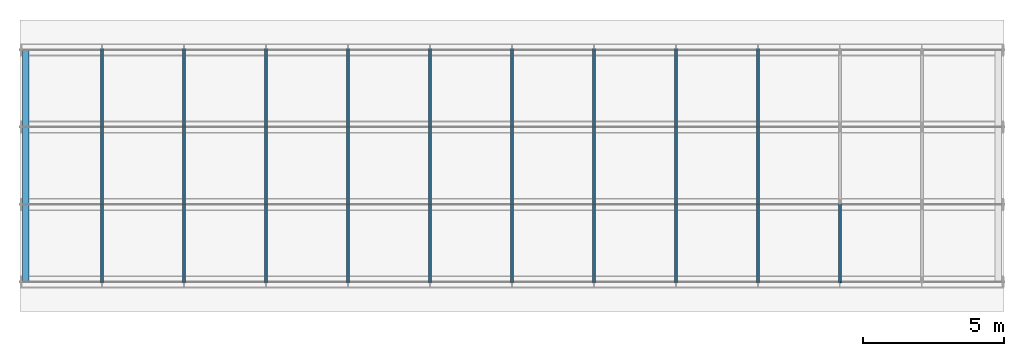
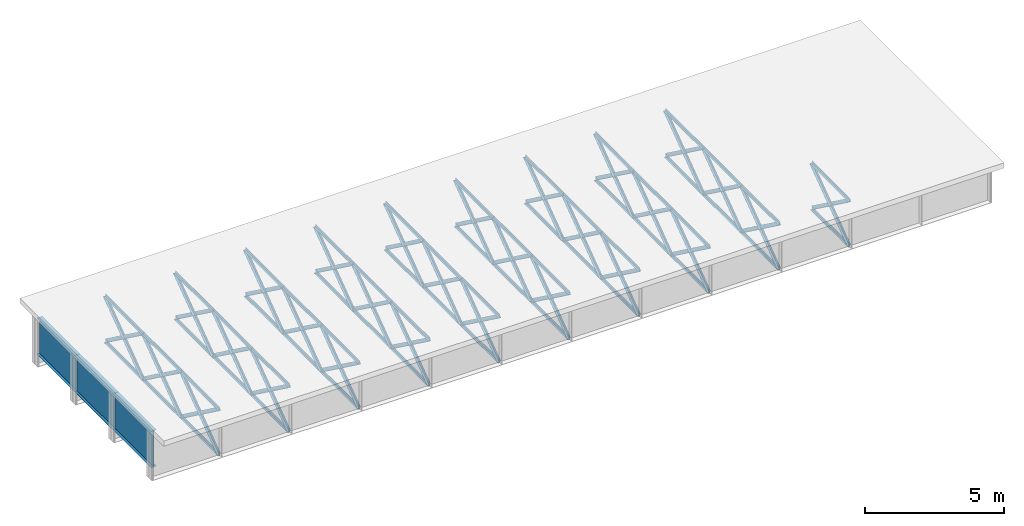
# One storey, part 1 of 13: 115 members.
"""IFC4 building model written with IfcOpenShell, lengths in metres."""

from ifc_helpers import new_model, si_unit, frame, origin, origin_with_axes, origin_2d_with_axis, place, context, subcontext, project, spatial, i_section, l_section, extrude, element, save


model = new_model("IFC4")

# Units and contexts
model_context = context("Model", 3, precision=1e-05, world=origin())
body_context = subcontext(model_context, "Body", "Model", "MODEL_VIEW")
ifc_project = project(units=[si_unit("LENGTHUNIT", "METRE"), si_unit("AREAUNIT", "SQUARE_METRE"), si_unit("VOLUMEUNIT", "CUBIC_METRE"), si_unit("PLANEANGLEUNIT", "RADIAN")], contexts=[model_context])

# Site, building, storey
site_placement = place(None, origin_with_axes())
site = spatial("IfcSite", under=ifc_project, at=site_placement, Name="Default Site")
building_placement = place(site_placement, origin_with_axes())
building = spatial("IfcBuilding", under=site, at=building_placement, Name="Bridge Structure")
storey_placement = place(building_placement, origin_with_axes())
storey = spatial("IfcBuildingStorey", under=building, at=storey_placement, Name="Superstructure")

# Members
for number, where, z_axis, x_axis, name in (
    (1, (0.2, -4.125, 0.2009999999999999), (0.0, 1.0, 0.0), (-1.0, 0.0, 0.0), "End Diaphragm"),
    (2, (0.2, -1.375, 0.2009999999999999), (0.0, 1.0, 0.0), (-1.0, 0.0, 0.0), "End Diaphragm"),
    (3, (0.2, 1.375, 0.2009999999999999), (0.0, 1.0, 0.0), (-1.0, 0.0, 0.0), "End Diaphragm"),
):
    element("IfcMember", number, at=place(storey_placement, frame(where, z_axis=z_axis, x_axis=x_axis)), inside=storey, Name=name, context=body_context, shape_type="SweptSolid", body=[
        extrude(i_section(OverallWidth=0.225, OverallDepth=1.608, WebThickness=0.018000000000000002, FlangeThickness=0.012, at=origin_2d_with_axis()), origin_with_axes(), (0.0, 0.0, 1.0), 2.75),
    ])
for number, where, z_axis, x_axis, name in (
    (4, (2.9166666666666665, -4.125, 1.005), (0.0, 0.8073373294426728, -0.5900901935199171), (-1.0, 0.0, 0.0), "Diagonal Brace"),
    (5, (2.9166666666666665, -4.125, -1.005), (0.0, 0.8073373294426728, 0.5900901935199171), (-1.0, 0.0, 0.0), "Diagonal Brace"),
):
    element("IfcMember", number, at=place(storey_placement, frame(where, z_axis=z_axis, x_axis=x_axis)), inside=storey, Name=name, context=body_context, shape_type="SweptSolid", body=[
        extrude(l_section(Depth=0.15, Width=0.1, Thickness=0.008, at=origin_2d_with_axis()), origin_with_axes(), (0.0, 0.0, 1.0), 3.4062589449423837),
    ])
for number, where, z_axis, x_axis, name in (
    (6, (2.9166666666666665, -4.125, -1.005), (0.0, 1.0, 0.0), (-1.0, 0.0, 0.0), "Bottom Chord"),
    (7, (2.9166666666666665, -4.125, 1.005), (0.0, 1.0, 0.0), (-1.0, 0.0, 0.0), "Top Chord"),
):
    element("IfcMember", number, at=place(storey_placement, frame(where, z_axis=z_axis, x_axis=x_axis)), inside=storey, Name=name, context=body_context, shape_type="SweptSolid", body=[
        extrude(l_section(Depth=0.13, Width=0.08, Thickness=0.008, at=origin_2d_with_axis()), origin_with_axes(), (0.0, 0.0, 1.0), 2.75),
    ])
for number, where, z_axis, x_axis, name in (
    (8, (2.9166666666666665, -1.375, 1.005), (0.0, 0.8073373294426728, -0.5900901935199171), (-1.0, 0.0, 0.0), "Diagonal Brace"),
    (9, (2.9166666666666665, -1.375, -1.005), (0.0, 0.8073373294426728, 0.5900901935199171), (-1.0, 0.0, 0.0), "Diagonal Brace"),
):
    element("IfcMember", number, at=place(storey_placement, frame(where, z_axis=z_axis, x_axis=x_axis)), inside=storey, Name=name, context=body_context, shape_type="SweptSolid", body=[
        extrude(l_section(Depth=0.15, Width=0.1, Thickness=0.008, at=origin_2d_with_axis()), origin_with_axes(), (0.0, 0.0, 1.0), 3.4062589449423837),
    ])
for number, where, z_axis, x_axis, name in (
    (10, (2.9166666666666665, -1.375, -1.005), (0.0, 1.0, 0.0), (-1.0, 0.0, 0.0), "Bottom Chord"),
    (11, (2.9166666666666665, -1.375, 1.005), (0.0, 1.0, 0.0), (-1.0, 0.0, 0.0), "Top Chord"),
):
    element("IfcMember", number, at=place(storey_placement, frame(where, z_axis=z_axis, x_axis=x_axis)), inside=storey, Name=name, context=body_context, shape_type="SweptSolid", body=[
        extrude(l_section(Depth=0.13, Width=0.08, Thickness=0.008, at=origin_2d_with_axis()), origin_with_axes(), (0.0, 0.0, 1.0), 2.75),
    ])
for number, where, z_axis, x_axis, name in (
    (12, (2.9166666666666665, 1.375, 1.005), (0.0, 0.8073373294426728, -0.5900901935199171), (-1.0, 0.0, 0.0), "Diagonal Brace"),
    (13, (2.9166666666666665, 1.375, -1.005), (0.0, 0.8073373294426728, 0.5900901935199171), (-1.0, 0.0, 0.0), "Diagonal Brace"),
):
    element("IfcMember", number, at=place(storey_placement, frame(where, z_axis=z_axis, x_axis=x_axis)), inside=storey, Name=name, context=body_context, shape_type="SweptSolid", body=[
        extrude(l_section(Depth=0.15, Width=0.1, Thickness=0.008, at=origin_2d_with_axis()), origin_with_axes(), (0.0, 0.0, 1.0), 3.4062589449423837),
    ])
for number, where, z_axis, x_axis, name in (
    (14, (2.9166666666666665, 1.375, -1.005), (0.0, 1.0, 0.0), (-1.0, 0.0, 0.0), "Bottom Chord"),
    (15, (2.9166666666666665, 1.375, 1.005), (0.0, 1.0, 0.0), (-1.0, 0.0, 0.0), "Top Chord"),
):
    element("IfcMember", number, at=place(storey_placement, frame(where, z_axis=z_axis, x_axis=x_axis)), inside=storey, Name=name, context=body_context, shape_type="SweptSolid", body=[
        extrude(l_section(Depth=0.13, Width=0.08, Thickness=0.008, at=origin_2d_with_axis()), origin_with_axes(), (0.0, 0.0, 1.0), 2.75),
    ])
for number, where, z_axis, x_axis, name in (
    (16, (5.833333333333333, -4.125, 1.005), (0.0, 0.8073373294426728, -0.5900901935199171), (-1.0, 0.0, 0.0), "Diagonal Brace"),
    (17, (5.833333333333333, -4.125, -1.005), (0.0, 0.8073373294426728, 0.5900901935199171), (-1.0, 0.0, 0.0), "Diagonal Brace"),
):
    element("IfcMember", number, at=place(storey_placement, frame(where, z_axis=z_axis, x_axis=x_axis)), inside=storey, Name=name, context=body_context, shape_type="SweptSolid", body=[
        extrude(l_section(Depth=0.15, Width=0.1, Thickness=0.008, at=origin_2d_with_axis()), origin_with_axes(), (0.0, 0.0, 1.0), 3.4062589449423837),
    ])
for number, where, z_axis, x_axis, name in (
    (18, (5.833333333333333, -4.125, -1.005), (0.0, 1.0, 0.0), (-1.0, 0.0, 0.0), "Bottom Chord"),
    (19, (5.833333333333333, -4.125, 1.005), (0.0, 1.0, 0.0), (-1.0, 0.0, 0.0), "Top Chord"),
):
    element("IfcMember", number, at=place(storey_placement, frame(where, z_axis=z_axis, x_axis=x_axis)), inside=storey, Name=name, context=body_context, shape_type="SweptSolid", body=[
        extrude(l_section(Depth=0.13, Width=0.08, Thickness=0.008, at=origin_2d_with_axis()), origin_with_axes(), (0.0, 0.0, 1.0), 2.75),
    ])
for number, where, z_axis, x_axis, name in (
    (20, (5.833333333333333, -1.375, 1.005), (0.0, 0.8073373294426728, -0.5900901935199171), (-1.0, 0.0, 0.0), "Diagonal Brace"),
    (21, (5.833333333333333, -1.375, -1.005), (0.0, 0.8073373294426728, 0.5900901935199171), (-1.0, 0.0, 0.0), "Diagonal Brace"),
):
    element("IfcMember", number, at=place(storey_placement, frame(where, z_axis=z_axis, x_axis=x_axis)), inside=storey, Name=name, context=body_context, shape_type="SweptSolid", body=[
        extrude(l_section(Depth=0.15, Width=0.1, Thickness=0.008, at=origin_2d_with_axis()), origin_with_axes(), (0.0, 0.0, 1.0), 3.4062589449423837),
    ])
for number, where, z_axis, x_axis, name in (
    (22, (5.833333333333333, -1.375, -1.005), (0.0, 1.0, 0.0), (-1.0, 0.0, 0.0), "Bottom Chord"),
    (23, (5.833333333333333, -1.375, 1.005), (0.0, 1.0, 0.0), (-1.0, 0.0, 0.0), "Top Chord"),
):
    element("IfcMember", number, at=place(storey_placement, frame(where, z_axis=z_axis, x_axis=x_axis)), inside=storey, Name=name, context=body_context, shape_type="SweptSolid", body=[
        extrude(l_section(Depth=0.13, Width=0.08, Thickness=0.008, at=origin_2d_with_axis()), origin_with_axes(), (0.0, 0.0, 1.0), 2.75),
    ])
for number, where, z_axis, x_axis, name in (
    (24, (5.833333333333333, 1.375, 1.005), (0.0, 0.8073373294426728, -0.5900901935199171), (-1.0, 0.0, 0.0), "Diagonal Brace"),
    (25, (5.833333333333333, 1.375, -1.005), (0.0, 0.8073373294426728, 0.5900901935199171), (-1.0, 0.0, 0.0), "Diagonal Brace"),
):
    element("IfcMember", number, at=place(storey_placement, frame(where, z_axis=z_axis, x_axis=x_axis)), inside=storey, Name=name, context=body_context, shape_type="SweptSolid", body=[
        extrude(l_section(Depth=0.15, Width=0.1, Thickness=0.008, at=origin_2d_with_axis()), origin_with_axes(), (0.0, 0.0, 1.0), 3.4062589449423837),
    ])
for number, where, z_axis, x_axis, name in (
    (26, (5.833333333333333, 1.375, -1.005), (0.0, 1.0, 0.0), (-1.0, 0.0, 0.0), "Bottom Chord"),
    (27, (5.833333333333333, 1.375, 1.005), (0.0, 1.0, 0.0), (-1.0, 0.0, 0.0), "Top Chord"),
):
    element("IfcMember", number, at=place(storey_placement, frame(where, z_axis=z_axis, x_axis=x_axis)), inside=storey, Name=name, context=body_context, shape_type="SweptSolid", body=[
        extrude(l_section(Depth=0.13, Width=0.08, Thickness=0.008, at=origin_2d_with_axis()), origin_with_axes(), (0.0, 0.0, 1.0), 2.75),
    ])
for number, where, z_axis, x_axis, name in (
    (28, (8.75, -4.125, 1.005), (0.0, 0.8073373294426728, -0.5900901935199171), (-1.0, 0.0, 0.0), "Diagonal Brace"),
    (29, (8.75, -4.125, -1.005), (0.0, 0.8073373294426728, 0.5900901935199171), (-1.0, 0.0, 0.0), "Diagonal Brace"),
):
    element("IfcMember", number, at=place(storey_placement, frame(where, z_axis=z_axis, x_axis=x_axis)), inside=storey, Name=name, context=body_context, shape_type="SweptSolid", body=[
        extrude(l_section(Depth=0.15, Width=0.1, Thickness=0.008, at=origin_2d_with_axis()), origin_with_axes(), (0.0, 0.0, 1.0), 3.4062589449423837),
    ])
for number, where, z_axis, x_axis, name in (
    (30, (8.75, -4.125, -1.005), (0.0, 1.0, 0.0), (-1.0, 0.0, 0.0), "Bottom Chord"),
    (31, (8.75, -4.125, 1.005), (0.0, 1.0, 0.0), (-1.0, 0.0, 0.0), "Top Chord"),
):
    element("IfcMember", number, at=place(storey_placement, frame(where, z_axis=z_axis, x_axis=x_axis)), inside=storey, Name=name, context=body_context, shape_type="SweptSolid", body=[
        extrude(l_section(Depth=0.13, Width=0.08, Thickness=0.008, at=origin_2d_with_axis()), origin_with_axes(), (0.0, 0.0, 1.0), 2.75),
    ])
for number, where, z_axis, x_axis, name in (
    (32, (8.75, -1.375, 1.005), (0.0, 0.8073373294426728, -0.5900901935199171), (-1.0, 0.0, 0.0), "Diagonal Brace"),
    (33, (8.75, -1.375, -1.005), (0.0, 0.8073373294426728, 0.5900901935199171), (-1.0, 0.0, 0.0), "Diagonal Brace"),
):
    element("IfcMember", number, at=place(storey_placement, frame(where, z_axis=z_axis, x_axis=x_axis)), inside=storey, Name=name, context=body_context, shape_type="SweptSolid", body=[
        extrude(l_section(Depth=0.15, Width=0.1, Thickness=0.008, at=origin_2d_with_axis()), origin_with_axes(), (0.0, 0.0, 1.0), 3.4062589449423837),
    ])
for number, where, z_axis, x_axis, name in (
    (34, (8.75, -1.375, -1.005), (0.0, 1.0, 0.0), (-1.0, 0.0, 0.0), "Bottom Chord"),
    (35, (8.75, -1.375, 1.005), (0.0, 1.0, 0.0), (-1.0, 0.0, 0.0), "Top Chord"),
):
    element("IfcMember", number, at=place(storey_placement, frame(where, z_axis=z_axis, x_axis=x_axis)), inside=storey, Name=name, context=body_context, shape_type="SweptSolid", body=[
        extrude(l_section(Depth=0.13, Width=0.08, Thickness=0.008, at=origin_2d_with_axis()), origin_with_axes(), (0.0, 0.0, 1.0), 2.75),
    ])
for number, where, z_axis, x_axis, name in (
    (36, (8.75, 1.375, 1.005), (0.0, 0.8073373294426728, -0.5900901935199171), (-1.0, 0.0, 0.0), "Diagonal Brace"),
    (37, (8.75, 1.375, -1.005), (0.0, 0.8073373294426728, 0.5900901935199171), (-1.0, 0.0, 0.0), "Diagonal Brace"),
):
    element("IfcMember", number, at=place(storey_placement, frame(where, z_axis=z_axis, x_axis=x_axis)), inside=storey, Name=name, context=body_context, shape_type="SweptSolid", body=[
        extrude(l_section(Depth=0.15, Width=0.1, Thickness=0.008, at=origin_2d_with_axis()), origin_with_axes(), (0.0, 0.0, 1.0), 3.4062589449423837),
    ])
for number, where, z_axis, x_axis, name in (
    (38, (8.75, 1.375, -1.005), (0.0, 1.0, 0.0), (-1.0, 0.0, 0.0), "Bottom Chord"),
    (39, (8.75, 1.375, 1.005), (0.0, 1.0, 0.0), (-1.0, 0.0, 0.0), "Top Chord"),
):
    element("IfcMember", number, at=place(storey_placement, frame(where, z_axis=z_axis, x_axis=x_axis)), inside=storey, Name=name, context=body_context, shape_type="SweptSolid", body=[
        extrude(l_section(Depth=0.13, Width=0.08, Thickness=0.008, at=origin_2d_with_axis()), origin_with_axes(), (0.0, 0.0, 1.0), 2.75),
    ])
for number, where, z_axis, x_axis, name in (
    (40, (11.666666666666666, -4.125, 1.005), (0.0, 0.8073373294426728, -0.5900901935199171), (-1.0, 0.0, 0.0), "Diagonal Brace"),
    (41, (11.666666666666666, -4.125, -1.005), (0.0, 0.8073373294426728, 0.5900901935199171), (-1.0, 0.0, 0.0), "Diagonal Brace"),
):
    element("IfcMember", number, at=place(storey_placement, frame(where, z_axis=z_axis, x_axis=x_axis)), inside=storey, Name=name, context=body_context, shape_type="SweptSolid", body=[
        extrude(l_section(Depth=0.15, Width=0.1, Thickness=0.008, at=origin_2d_with_axis()), origin_with_axes(), (0.0, 0.0, 1.0), 3.4062589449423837),
    ])
for number, where, z_axis, x_axis, name in (
    (42, (11.666666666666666, -4.125, -1.005), (0.0, 1.0, 0.0), (-1.0, 0.0, 0.0), "Bottom Chord"),
    (43, (11.666666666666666, -4.125, 1.005), (0.0, 1.0, 0.0), (-1.0, 0.0, 0.0), "Top Chord"),
):
    element("IfcMember", number, at=place(storey_placement, frame(where, z_axis=z_axis, x_axis=x_axis)), inside=storey, Name=name, context=body_context, shape_type="SweptSolid", body=[
        extrude(l_section(Depth=0.13, Width=0.08, Thickness=0.008, at=origin_2d_with_axis()), origin_with_axes(), (0.0, 0.0, 1.0), 2.75),
    ])
for number, where, z_axis, x_axis, name in (
    (44, (11.666666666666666, -1.375, 1.005), (0.0, 0.8073373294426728, -0.5900901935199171), (-1.0, 0.0, 0.0), "Diagonal Brace"),
    (45, (11.666666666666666, -1.375, -1.005), (0.0, 0.8073373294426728, 0.5900901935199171), (-1.0, 0.0, 0.0), "Diagonal Brace"),
):
    element("IfcMember", number, at=place(storey_placement, frame(where, z_axis=z_axis, x_axis=x_axis)), inside=storey, Name=name, context=body_context, shape_type="SweptSolid", body=[
        extrude(l_section(Depth=0.15, Width=0.1, Thickness=0.008, at=origin_2d_with_axis()), origin_with_axes(), (0.0, 0.0, 1.0), 3.4062589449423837),
    ])
for number, where, z_axis, x_axis, name in (
    (46, (11.666666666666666, -1.375, -1.005), (0.0, 1.0, 0.0), (-1.0, 0.0, 0.0), "Bottom Chord"),
    (47, (11.666666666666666, -1.375, 1.005), (0.0, 1.0, 0.0), (-1.0, 0.0, 0.0), "Top Chord"),
):
    element("IfcMember", number, at=place(storey_placement, frame(where, z_axis=z_axis, x_axis=x_axis)), inside=storey, Name=name, context=body_context, shape_type="SweptSolid", body=[
        extrude(l_section(Depth=0.13, Width=0.08, Thickness=0.008, at=origin_2d_with_axis()), origin_with_axes(), (0.0, 0.0, 1.0), 2.75),
    ])
for number, where, z_axis, x_axis, name in (
    (48, (11.666666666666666, 1.375, 1.005), (0.0, 0.8073373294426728, -0.5900901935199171), (-1.0, 0.0, 0.0), "Diagonal Brace"),
    (49, (11.666666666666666, 1.375, -1.005), (0.0, 0.8073373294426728, 0.5900901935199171), (-1.0, 0.0, 0.0), "Diagonal Brace"),
):
    element("IfcMember", number, at=place(storey_placement, frame(where, z_axis=z_axis, x_axis=x_axis)), inside=storey, Name=name, context=body_context, shape_type="SweptSolid", body=[
        extrude(l_section(Depth=0.15, Width=0.1, Thickness=0.008, at=origin_2d_with_axis()), origin_with_axes(), (0.0, 0.0, 1.0), 3.4062589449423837),
    ])
for number, where, z_axis, x_axis, name in (
    (50, (11.666666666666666, 1.375, -1.005), (0.0, 1.0, 0.0), (-1.0, 0.0, 0.0), "Bottom Chord"),
    (51, (11.666666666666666, 1.375, 1.005), (0.0, 1.0, 0.0), (-1.0, 0.0, 0.0), "Top Chord"),
):
    element("IfcMember", number, at=place(storey_placement, frame(where, z_axis=z_axis, x_axis=x_axis)), inside=storey, Name=name, context=body_context, shape_type="SweptSolid", body=[
        extrude(l_section(Depth=0.13, Width=0.08, Thickness=0.008, at=origin_2d_with_axis()), origin_with_axes(), (0.0, 0.0, 1.0), 2.75),
    ])
for number, where, z_axis, x_axis, name in (
    (52, (14.583333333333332, -4.125, 1.005), (0.0, 0.8073373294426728, -0.5900901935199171), (-1.0, 0.0, 0.0), "Diagonal Brace"),
    (53, (14.583333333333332, -4.125, -1.005), (0.0, 0.8073373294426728, 0.5900901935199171), (-1.0, 0.0, 0.0), "Diagonal Brace"),
):
    element("IfcMember", number, at=place(storey_placement, frame(where, z_axis=z_axis, x_axis=x_axis)), inside=storey, Name=name, context=body_context, shape_type="SweptSolid", body=[
        extrude(l_section(Depth=0.15, Width=0.1, Thickness=0.008, at=origin_2d_with_axis()), origin_with_axes(), (0.0, 0.0, 1.0), 3.4062589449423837),
    ])
for number, where, z_axis, x_axis, name in (
    (54, (14.583333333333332, -4.125, -1.005), (0.0, 1.0, 0.0), (-1.0, 0.0, 0.0), "Bottom Chord"),
    (55, (14.583333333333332, -4.125, 1.005), (0.0, 1.0, 0.0), (-1.0, 0.0, 0.0), "Top Chord"),
):
    element("IfcMember", number, at=place(storey_placement, frame(where, z_axis=z_axis, x_axis=x_axis)), inside=storey, Name=name, context=body_context, shape_type="SweptSolid", body=[
        extrude(l_section(Depth=0.13, Width=0.08, Thickness=0.008, at=origin_2d_with_axis()), origin_with_axes(), (0.0, 0.0, 1.0), 2.75),
    ])
for number, where, z_axis, x_axis, name in (
    (56, (14.583333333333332, -1.375, 1.005), (0.0, 0.8073373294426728, -0.5900901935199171), (-1.0, 0.0, 0.0), "Diagonal Brace"),
    (57, (14.583333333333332, -1.375, -1.005), (0.0, 0.8073373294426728, 0.5900901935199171), (-1.0, 0.0, 0.0), "Diagonal Brace"),
):
    element("IfcMember", number, at=place(storey_placement, frame(where, z_axis=z_axis, x_axis=x_axis)), inside=storey, Name=name, context=body_context, shape_type="SweptSolid", body=[
        extrude(l_section(Depth=0.15, Width=0.1, Thickness=0.008, at=origin_2d_with_axis()), origin_with_axes(), (0.0, 0.0, 1.0), 3.4062589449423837),
    ])
for number, where, z_axis, x_axis, name in (
    (58, (14.583333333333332, -1.375, -1.005), (0.0, 1.0, 0.0), (-1.0, 0.0, 0.0), "Bottom Chord"),
    (59, (14.583333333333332, -1.375, 1.005), (0.0, 1.0, 0.0), (-1.0, 0.0, 0.0), "Top Chord"),
):
    element("IfcMember", number, at=place(storey_placement, frame(where, z_axis=z_axis, x_axis=x_axis)), inside=storey, Name=name, context=body_context, shape_type="SweptSolid", body=[
        extrude(l_section(Depth=0.13, Width=0.08, Thickness=0.008, at=origin_2d_with_axis()), origin_with_axes(), (0.0, 0.0, 1.0), 2.75),
    ])
for number, where, z_axis, x_axis, name in (
    (60, (14.583333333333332, 1.375, 1.005), (0.0, 0.8073373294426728, -0.5900901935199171), (-1.0, 0.0, 0.0), "Diagonal Brace"),
    (61, (14.583333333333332, 1.375, -1.005), (0.0, 0.8073373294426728, 0.5900901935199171), (-1.0, 0.0, 0.0), "Diagonal Brace"),
):
    element("IfcMember", number, at=place(storey_placement, frame(where, z_axis=z_axis, x_axis=x_axis)), inside=storey, Name=name, context=body_context, shape_type="SweptSolid", body=[
        extrude(l_section(Depth=0.15, Width=0.1, Thickness=0.008, at=origin_2d_with_axis()), origin_with_axes(), (0.0, 0.0, 1.0), 3.4062589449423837),
    ])
for number, where, z_axis, x_axis, name in (
    (62, (14.583333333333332, 1.375, -1.005), (0.0, 1.0, 0.0), (-1.0, 0.0, 0.0), "Bottom Chord"),
    (63, (14.583333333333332, 1.375, 1.005), (0.0, 1.0, 0.0), (-1.0, 0.0, 0.0), "Top Chord"),
):
    element("IfcMember", number, at=place(storey_placement, frame(where, z_axis=z_axis, x_axis=x_axis)), inside=storey, Name=name, context=body_context, shape_type="SweptSolid", body=[
        extrude(l_section(Depth=0.13, Width=0.08, Thickness=0.008, at=origin_2d_with_axis()), origin_with_axes(), (0.0, 0.0, 1.0), 2.75),
    ])
for number, where, z_axis, x_axis, name in (
    (64, (17.5, -4.125, 1.005), (0.0, 0.8073373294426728, -0.5900901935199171), (-1.0, 0.0, 0.0), "Diagonal Brace"),
    (65, (17.5, -4.125, -1.005), (0.0, 0.8073373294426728, 0.5900901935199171), (-1.0, 0.0, 0.0), "Diagonal Brace"),
):
    element("IfcMember", number, at=place(storey_placement, frame(where, z_axis=z_axis, x_axis=x_axis)), inside=storey, Name=name, context=body_context, shape_type="SweptSolid", body=[
        extrude(l_section(Depth=0.15, Width=0.1, Thickness=0.008, at=origin_2d_with_axis()), origin_with_axes(), (0.0, 0.0, 1.0), 3.4062589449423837),
    ])
for number, where, z_axis, x_axis, name in (
    (66, (17.5, -4.125, -1.005), (0.0, 1.0, 0.0), (-1.0, 0.0, 0.0), "Bottom Chord"),
    (67, (17.5, -4.125, 1.005), (0.0, 1.0, 0.0), (-1.0, 0.0, 0.0), "Top Chord"),
):
    element("IfcMember", number, at=place(storey_placement, frame(where, z_axis=z_axis, x_axis=x_axis)), inside=storey, Name=name, context=body_context, shape_type="SweptSolid", body=[
        extrude(l_section(Depth=0.13, Width=0.08, Thickness=0.008, at=origin_2d_with_axis()), origin_with_axes(), (0.0, 0.0, 1.0), 2.75),
    ])
for number, where, z_axis, x_axis, name in (
    (68, (17.5, -1.375, 1.005), (0.0, 0.8073373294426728, -0.5900901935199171), (-1.0, 0.0, 0.0), "Diagonal Brace"),
    (69, (17.5, -1.375, -1.005), (0.0, 0.8073373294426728, 0.5900901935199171), (-1.0, 0.0, 0.0), "Diagonal Brace"),
):
    element("IfcMember", number, at=place(storey_placement, frame(where, z_axis=z_axis, x_axis=x_axis)), inside=storey, Name=name, context=body_context, shape_type="SweptSolid", body=[
        extrude(l_section(Depth=0.15, Width=0.1, Thickness=0.008, at=origin_2d_with_axis()), origin_with_axes(), (0.0, 0.0, 1.0), 3.4062589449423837),
    ])
for number, where, z_axis, x_axis, name in (
    (70, (17.5, -1.375, -1.005), (0.0, 1.0, 0.0), (-1.0, 0.0, 0.0), "Bottom Chord"),
    (71, (17.5, -1.375, 1.005), (0.0, 1.0, 0.0), (-1.0, 0.0, 0.0), "Top Chord"),
):
    element("IfcMember", number, at=place(storey_placement, frame(where, z_axis=z_axis, x_axis=x_axis)), inside=storey, Name=name, context=body_context, shape_type="SweptSolid", body=[
        extrude(l_section(Depth=0.13, Width=0.08, Thickness=0.008, at=origin_2d_with_axis()), origin_with_axes(), (0.0, 0.0, 1.0), 2.75),
    ])
for number, where, z_axis, x_axis, name in (
    (72, (17.5, 1.375, 1.005), (0.0, 0.8073373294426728, -0.5900901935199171), (-1.0, 0.0, 0.0), "Diagonal Brace"),
    (73, (17.5, 1.375, -1.005), (0.0, 0.8073373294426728, 0.5900901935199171), (-1.0, 0.0, 0.0), "Diagonal Brace"),
):
    element("IfcMember", number, at=place(storey_placement, frame(where, z_axis=z_axis, x_axis=x_axis)), inside=storey, Name=name, context=body_context, shape_type="SweptSolid", body=[
        extrude(l_section(Depth=0.15, Width=0.1, Thickness=0.008, at=origin_2d_with_axis()), origin_with_axes(), (0.0, 0.0, 1.0), 3.4062589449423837),
    ])
for number, where, z_axis, x_axis, name in (
    (74, (17.5, 1.375, -1.005), (0.0, 1.0, 0.0), (-1.0, 0.0, 0.0), "Bottom Chord"),
    (75, (17.5, 1.375, 1.005), (0.0, 1.0, 0.0), (-1.0, 0.0, 0.0), "Top Chord"),
):
    element("IfcMember", number, at=place(storey_placement, frame(where, z_axis=z_axis, x_axis=x_axis)), inside=storey, Name=name, context=body_context, shape_type="SweptSolid", body=[
        extrude(l_section(Depth=0.13, Width=0.08, Thickness=0.008, at=origin_2d_with_axis()), origin_with_axes(), (0.0, 0.0, 1.0), 2.75),
    ])
for number, where, z_axis, x_axis, name in (
    (76, (20.416666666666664, -4.125, 1.005), (0.0, 0.8073373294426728, -0.5900901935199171), (-1.0, 0.0, 0.0), "Diagonal Brace"),
    (77, (20.416666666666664, -4.125, -1.005), (0.0, 0.8073373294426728, 0.5900901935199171), (-1.0, 0.0, 0.0), "Diagonal Brace"),
):
    element("IfcMember", number, at=place(storey_placement, frame(where, z_axis=z_axis, x_axis=x_axis)), inside=storey, Name=name, context=body_context, shape_type="SweptSolid", body=[
        extrude(l_section(Depth=0.15, Width=0.1, Thickness=0.008, at=origin_2d_with_axis()), origin_with_axes(), (0.0, 0.0, 1.0), 3.4062589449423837),
    ])
for number, where, z_axis, x_axis, name in (
    (78, (20.416666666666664, -4.125, -1.005), (0.0, 1.0, 0.0), (-1.0, 0.0, 0.0), "Bottom Chord"),
    (79, (20.416666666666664, -4.125, 1.005), (0.0, 1.0, 0.0), (-1.0, 0.0, 0.0), "Top Chord"),
):
    element("IfcMember", number, at=place(storey_placement, frame(where, z_axis=z_axis, x_axis=x_axis)), inside=storey, Name=name, context=body_context, shape_type="SweptSolid", body=[
        extrude(l_section(Depth=0.13, Width=0.08, Thickness=0.008, at=origin_2d_with_axis()), origin_with_axes(), (0.0, 0.0, 1.0), 2.75),
    ])
for number, where, z_axis, x_axis, name in (
    (80, (20.416666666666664, -1.375, 1.005), (0.0, 0.8073373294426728, -0.5900901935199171), (-1.0, 0.0, 0.0), "Diagonal Brace"),
    (81, (20.416666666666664, -1.375, -1.005), (0.0, 0.8073373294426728, 0.5900901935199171), (-1.0, 0.0, 0.0), "Diagonal Brace"),
):
    element("IfcMember", number, at=place(storey_placement, frame(where, z_axis=z_axis, x_axis=x_axis)), inside=storey, Name=name, context=body_context, shape_type="SweptSolid", body=[
        extrude(l_section(Depth=0.15, Width=0.1, Thickness=0.008, at=origin_2d_with_axis()), origin_with_axes(), (0.0, 0.0, 1.0), 3.4062589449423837),
    ])
for number, where, z_axis, x_axis, name in (
    (82, (20.416666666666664, -1.375, -1.005), (0.0, 1.0, 0.0), (-1.0, 0.0, 0.0), "Bottom Chord"),
    (83, (20.416666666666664, -1.375, 1.005), (0.0, 1.0, 0.0), (-1.0, 0.0, 0.0), "Top Chord"),
):
    element("IfcMember", number, at=place(storey_placement, frame(where, z_axis=z_axis, x_axis=x_axis)), inside=storey, Name=name, context=body_context, shape_type="SweptSolid", body=[
        extrude(l_section(Depth=0.13, Width=0.08, Thickness=0.008, at=origin_2d_with_axis()), origin_with_axes(), (0.0, 0.0, 1.0), 2.75),
    ])
for number, where, z_axis, x_axis, name in (
    (84, (20.416666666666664, 1.375, 1.005), (0.0, 0.8073373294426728, -0.5900901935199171), (-1.0, 0.0, 0.0), "Diagonal Brace"),
    (85, (20.416666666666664, 1.375, -1.005), (0.0, 0.8073373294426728, 0.5900901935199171), (-1.0, 0.0, 0.0), "Diagonal Brace"),
):
    element("IfcMember", number, at=place(storey_placement, frame(where, z_axis=z_axis, x_axis=x_axis)), inside=storey, Name=name, context=body_context, shape_type="SweptSolid", body=[
        extrude(l_section(Depth=0.15, Width=0.1, Thickness=0.008, at=origin_2d_with_axis()), origin_with_axes(), (0.0, 0.0, 1.0), 3.4062589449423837),
    ])
for number, where, z_axis, x_axis, name in (
    (86, (20.416666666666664, 1.375, -1.005), (0.0, 1.0, 0.0), (-1.0, 0.0, 0.0), "Bottom Chord"),
    (87, (20.416666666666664, 1.375, 1.005), (0.0, 1.0, 0.0), (-1.0, 0.0, 0.0), "Top Chord"),
):
    element("IfcMember", number, at=place(storey_placement, frame(where, z_axis=z_axis, x_axis=x_axis)), inside=storey, Name=name, context=body_context, shape_type="SweptSolid", body=[
        extrude(l_section(Depth=0.13, Width=0.08, Thickness=0.008, at=origin_2d_with_axis()), origin_with_axes(), (0.0, 0.0, 1.0), 2.75),
    ])
for number, where, z_axis, x_axis, name in (
    (88, (23.333333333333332, -4.125, 1.005), (0.0, 0.8073373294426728, -0.5900901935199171), (-1.0, 0.0, 0.0), "Diagonal Brace"),
    (89, (23.333333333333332, -4.125, -1.005), (0.0, 0.8073373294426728, 0.5900901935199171), (-1.0, 0.0, 0.0), "Diagonal Brace"),
):
    element("IfcMember", number, at=place(storey_placement, frame(where, z_axis=z_axis, x_axis=x_axis)), inside=storey, Name=name, context=body_context, shape_type="SweptSolid", body=[
        extrude(l_section(Depth=0.15, Width=0.1, Thickness=0.008, at=origin_2d_with_axis()), origin_with_axes(), (0.0, 0.0, 1.0), 3.4062589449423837),
    ])
for number, where, z_axis, x_axis, name in (
    (90, (23.333333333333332, -4.125, -1.005), (0.0, 1.0, 0.0), (-1.0, 0.0, 0.0), "Bottom Chord"),
    (91, (23.333333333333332, -4.125, 1.005), (0.0, 1.0, 0.0), (-1.0, 0.0, 0.0), "Top Chord"),
):
    element("IfcMember", number, at=place(storey_placement, frame(where, z_axis=z_axis, x_axis=x_axis)), inside=storey, Name=name, context=body_context, shape_type="SweptSolid", body=[
        extrude(l_section(Depth=0.13, Width=0.08, Thickness=0.008, at=origin_2d_with_axis()), origin_with_axes(), (0.0, 0.0, 1.0), 2.75),
    ])
for number, where, z_axis, x_axis, name in (
    (92, (23.333333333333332, -1.375, 1.005), (0.0, 0.8073373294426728, -0.5900901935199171), (-1.0, 0.0, 0.0), "Diagonal Brace"),
    (93, (23.333333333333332, -1.375, -1.005), (0.0, 0.8073373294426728, 0.5900901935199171), (-1.0, 0.0, 0.0), "Diagonal Brace"),
):
    element("IfcMember", number, at=place(storey_placement, frame(where, z_axis=z_axis, x_axis=x_axis)), inside=storey, Name=name, context=body_context, shape_type="SweptSolid", body=[
        extrude(l_section(Depth=0.15, Width=0.1, Thickness=0.008, at=origin_2d_with_axis()), origin_with_axes(), (0.0, 0.0, 1.0), 3.4062589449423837),
    ])
for number, where, z_axis, x_axis, name in (
    (94, (23.333333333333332, -1.375, -1.005), (0.0, 1.0, 0.0), (-1.0, 0.0, 0.0), "Bottom Chord"),
    (95, (23.333333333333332, -1.375, 1.005), (0.0, 1.0, 0.0), (-1.0, 0.0, 0.0), "Top Chord"),
):
    element("IfcMember", number, at=place(storey_placement, frame(where, z_axis=z_axis, x_axis=x_axis)), inside=storey, Name=name, context=body_context, shape_type="SweptSolid", body=[
        extrude(l_section(Depth=0.13, Width=0.08, Thickness=0.008, at=origin_2d_with_axis()), origin_with_axes(), (0.0, 0.0, 1.0), 2.75),
    ])
for number, where, z_axis, x_axis, name in (
    (96, (23.333333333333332, 1.375, 1.005), (0.0, 0.8073373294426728, -0.5900901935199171), (-1.0, 0.0, 0.0), "Diagonal Brace"),
    (97, (23.333333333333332, 1.375, -1.005), (0.0, 0.8073373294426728, 0.5900901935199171), (-1.0, 0.0, 0.0), "Diagonal Brace"),
):
    element("IfcMember", number, at=place(storey_placement, frame(where, z_axis=z_axis, x_axis=x_axis)), inside=storey, Name=name, context=body_context, shape_type="SweptSolid", body=[
        extrude(l_section(Depth=0.15, Width=0.1, Thickness=0.008, at=origin_2d_with_axis()), origin_with_axes(), (0.0, 0.0, 1.0), 3.4062589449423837),
    ])
for number, where, z_axis, x_axis, name in (
    (98, (23.333333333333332, 1.375, -1.005), (0.0, 1.0, 0.0), (-1.0, 0.0, 0.0), "Bottom Chord"),
    (99, (23.333333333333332, 1.375, 1.005), (0.0, 1.0, 0.0), (-1.0, 0.0, 0.0), "Top Chord"),
):
    element("IfcMember", number, at=place(storey_placement, frame(where, z_axis=z_axis, x_axis=x_axis)), inside=storey, Name=name, context=body_context, shape_type="SweptSolid", body=[
        extrude(l_section(Depth=0.13, Width=0.08, Thickness=0.008, at=origin_2d_with_axis()), origin_with_axes(), (0.0, 0.0, 1.0), 2.75),
    ])
for number, where, z_axis, x_axis, name in (
    (100, (26.25, -4.125, 1.005), (0.0, 0.8073373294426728, -0.5900901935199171), (-1.0, 0.0, 0.0), "Diagonal Brace"),
    (101, (26.25, -4.125, -1.005), (0.0, 0.8073373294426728, 0.5900901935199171), (-1.0, 0.0, 0.0), "Diagonal Brace"),
):
    element("IfcMember", number, at=place(storey_placement, frame(where, z_axis=z_axis, x_axis=x_axis)), inside=storey, Name=name, context=body_context, shape_type="SweptSolid", body=[
        extrude(l_section(Depth=0.15, Width=0.1, Thickness=0.008, at=origin_2d_with_axis()), origin_with_axes(), (0.0, 0.0, 1.0), 3.4062589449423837),
    ])
for number, where, z_axis, x_axis, name in (
    (102, (26.25, -4.125, -1.005), (0.0, 1.0, 0.0), (-1.0, 0.0, 0.0), "Bottom Chord"),
    (103, (26.25, -4.125, 1.005), (0.0, 1.0, 0.0), (-1.0, 0.0, 0.0), "Top Chord"),
):
    element("IfcMember", number, at=place(storey_placement, frame(where, z_axis=z_axis, x_axis=x_axis)), inside=storey, Name=name, context=body_context, shape_type="SweptSolid", body=[
        extrude(l_section(Depth=0.13, Width=0.08, Thickness=0.008, at=origin_2d_with_axis()), origin_with_axes(), (0.0, 0.0, 1.0), 2.75),
    ])
for number, where, z_axis, x_axis, name in (
    (104, (26.25, -1.375, 1.005), (0.0, 0.8073373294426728, -0.5900901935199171), (-1.0, 0.0, 0.0), "Diagonal Brace"),
    (105, (26.25, -1.375, -1.005), (0.0, 0.8073373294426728, 0.5900901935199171), (-1.0, 0.0, 0.0), "Diagonal Brace"),
):
    element("IfcMember", number, at=place(storey_placement, frame(where, z_axis=z_axis, x_axis=x_axis)), inside=storey, Name=name, context=body_context, shape_type="SweptSolid", body=[
        extrude(l_section(Depth=0.15, Width=0.1, Thickness=0.008, at=origin_2d_with_axis()), origin_with_axes(), (0.0, 0.0, 1.0), 3.4062589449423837),
    ])
for number, where, z_axis, x_axis, name in (
    (106, (26.25, -1.375, -1.005), (0.0, 1.0, 0.0), (-1.0, 0.0, 0.0), "Bottom Chord"),
    (107, (26.25, -1.375, 1.005), (0.0, 1.0, 0.0), (-1.0, 0.0, 0.0), "Top Chord"),
):
    element("IfcMember", number, at=place(storey_placement, frame(where, z_axis=z_axis, x_axis=x_axis)), inside=storey, Name=name, context=body_context, shape_type="SweptSolid", body=[
        extrude(l_section(Depth=0.13, Width=0.08, Thickness=0.008, at=origin_2d_with_axis()), origin_with_axes(), (0.0, 0.0, 1.0), 2.75),
    ])
for number, where, z_axis, x_axis, name in (
    (108, (26.25, 1.375, 1.005), (0.0, 0.8073373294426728, -0.5900901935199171), (-1.0, 0.0, 0.0), "Diagonal Brace"),
    (109, (26.25, 1.375, -1.005), (0.0, 0.8073373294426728, 0.5900901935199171), (-1.0, 0.0, 0.0), "Diagonal Brace"),
):
    element("IfcMember", number, at=place(storey_placement, frame(where, z_axis=z_axis, x_axis=x_axis)), inside=storey, Name=name, context=body_context, shape_type="SweptSolid", body=[
        extrude(l_section(Depth=0.15, Width=0.1, Thickness=0.008, at=origin_2d_with_axis()), origin_with_axes(), (0.0, 0.0, 1.0), 3.4062589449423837),
    ])
for number, where, z_axis, x_axis, name in (
    (110, (26.25, 1.375, -1.005), (0.0, 1.0, 0.0), (-1.0, 0.0, 0.0), "Bottom Chord"),
    (111, (26.25, 1.375, 1.005), (0.0, 1.0, 0.0), (-1.0, 0.0, 0.0), "Top Chord"),
):
    element("IfcMember", number, at=place(storey_placement, frame(where, z_axis=z_axis, x_axis=x_axis)), inside=storey, Name=name, context=body_context, shape_type="SweptSolid", body=[
        extrude(l_section(Depth=0.13, Width=0.08, Thickness=0.008, at=origin_2d_with_axis()), origin_with_axes(), (0.0, 0.0, 1.0), 2.75),
    ])
for number, where, z_axis, x_axis, name in (
    (112, (29.166666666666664, -4.125, 1.005), (0.0, 0.8073373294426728, -0.5900901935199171), (-1.0, 0.0, 0.0), "Diagonal Brace"),
    (113, (29.166666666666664, -4.125, -1.005), (0.0, 0.8073373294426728, 0.5900901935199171), (-1.0, 0.0, 0.0), "Diagonal Brace"),
):
    element("IfcMember", number, at=place(storey_placement, frame(where, z_axis=z_axis, x_axis=x_axis)), inside=storey, Name=name, context=body_context, shape_type="SweptSolid", body=[
        extrude(l_section(Depth=0.15, Width=0.1, Thickness=0.008, at=origin_2d_with_axis()), origin_with_axes(), (0.0, 0.0, 1.0), 3.4062589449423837),
    ])
for number, where, z_axis, x_axis, name in (
    (114, (29.166666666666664, -4.125, -1.005), (0.0, 1.0, 0.0), (-1.0, 0.0, 0.0), "Bottom Chord"),
    (115, (29.166666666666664, -4.125, 1.005), (0.0, 1.0, 0.0), (-1.0, 0.0, 0.0), "Top Chord"),
):
    element("IfcMember", number, at=place(storey_placement, frame(where, z_axis=z_axis, x_axis=x_axis)), inside=storey, Name=name, context=body_context, shape_type="SweptSolid", body=[
        extrude(l_section(Depth=0.13, Width=0.08, Thickness=0.008, at=origin_2d_with_axis()), origin_with_axes(), (0.0, 0.0, 1.0), 2.75),
    ])

save(model, "model.ifc")
